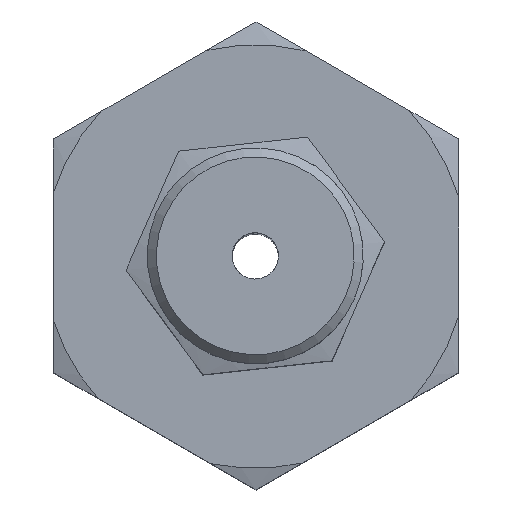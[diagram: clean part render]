
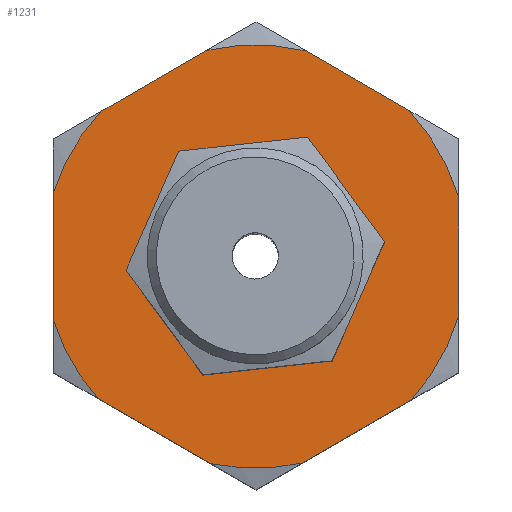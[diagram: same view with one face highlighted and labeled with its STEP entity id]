
A CAD part, top view. The second image highlights one B-rep face of the part: STEP entity #1231.
In plain terms, the highlighted planar face has unit normal (0, 0, 1).
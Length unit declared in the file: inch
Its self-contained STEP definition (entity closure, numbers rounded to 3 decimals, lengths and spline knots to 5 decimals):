
#89=LINE('',#5486,#123);
#97=LINE('',#5498,#131);
#98=LINE('',#5500,#132);
#100=LINE('',#5503,#134);
#102=LINE('',#5506,#136);
#104=LINE('',#5509,#138);
#123=VECTOR('',#1580,0.17691);
#131=VECTOR('',#1594,0.1789);
#132=VECTOR('',#1597,0.16854);
#134=VECTOR('',#1601,0.16192);
#136=VECTOR('',#1605,0.1641);
#138=VECTOR('',#1609,0.17271);
#263=PLANE('',#1349);
#292=FACE_BOUND('',#467,.T.);
#364=FACE_OUTER_BOUND('',#466,.T.);
#466=EDGE_LOOP('',(#1120,#1121,#1122,#1123,#1124,#1125,#1126,#1127,#1128,
#1129,#1130,#1131));
#467=EDGE_LOOP('',(#1132));
#507=CIRCLE('',#1315,0.1225);
#514=CIRCLE('',#1330,0.29175);
#515=CIRCLE('',#1332,0.29175);
#516=CIRCLE('',#1334,0.29175);
#517=CIRCLE('',#1336,0.29175);
#518=CIRCLE('',#1338,0.29175);
#519=CIRCLE('',#1340,0.29175);
#605=VERTEX_POINT('',#5348);
#624=VERTEX_POINT('',#5418);
#626=VERTEX_POINT('',#5423);
#627=VERTEX_POINT('',#5429);
#629=VERTEX_POINT('',#5434);
#630=VERTEX_POINT('',#5440);
#632=VERTEX_POINT('',#5445);
#633=VERTEX_POINT('',#5451);
#635=VERTEX_POINT('',#5456);
#636=VERTEX_POINT('',#5462);
#638=VERTEX_POINT('',#5467);
#640=VERTEX_POINT('',#5474);
#641=VERTEX_POINT('',#5478);
#753=EDGE_CURVE('',#605,#605,#507,.T.);
#773=EDGE_CURVE('',#626,#624,#514,.T.);
#776=EDGE_CURVE('',#629,#627,#515,.T.);
#779=EDGE_CURVE('',#632,#630,#516,.T.);
#782=EDGE_CURVE('',#635,#633,#517,.T.);
#785=EDGE_CURVE('',#638,#636,#518,.T.);
#789=EDGE_CURVE('',#640,#641,#519,.T.);
#792=EDGE_CURVE('',#638,#633,#89,.T.);
#801=EDGE_CURVE('',#640,#636,#97,.T.);
#802=EDGE_CURVE('',#635,#630,#98,.T.);
#804=EDGE_CURVE('',#632,#627,#100,.T.);
#806=EDGE_CURVE('',#629,#624,#102,.T.);
#808=EDGE_CURVE('',#626,#641,#104,.T.);
#1120=ORIENTED_EDGE('',*,*,#789,.T.);
#1121=ORIENTED_EDGE('',*,*,#808,.F.);
#1122=ORIENTED_EDGE('',*,*,#773,.T.);
#1123=ORIENTED_EDGE('',*,*,#806,.F.);
#1124=ORIENTED_EDGE('',*,*,#776,.T.);
#1125=ORIENTED_EDGE('',*,*,#804,.F.);
#1126=ORIENTED_EDGE('',*,*,#779,.T.);
#1127=ORIENTED_EDGE('',*,*,#802,.F.);
#1128=ORIENTED_EDGE('',*,*,#782,.T.);
#1129=ORIENTED_EDGE('',*,*,#792,.F.);
#1130=ORIENTED_EDGE('',*,*,#785,.T.);
#1131=ORIENTED_EDGE('',*,*,#801,.F.);
#1132=ORIENTED_EDGE('',*,*,#753,.T.);
#1231=ADVANCED_FACE('',(#364,#292),#263,.T.);
#1315=AXIS2_PLACEMENT_3D('',#5349,#1524,#1525);
#1330=AXIS2_PLACEMENT_3D('',#5424,#1554,#1555);
#1332=AXIS2_PLACEMENT_3D('',#5435,#1558,#1559);
#1334=AXIS2_PLACEMENT_3D('',#5446,#1562,#1563);
#1336=AXIS2_PLACEMENT_3D('',#5457,#1566,#1567);
#1338=AXIS2_PLACEMENT_3D('',#5468,#1570,#1571);
#1340=AXIS2_PLACEMENT_3D('',#5482,#1574,#1575);
#1349=AXIS2_PLACEMENT_3D('',#5510,#1610,#1611);
#1524=DIRECTION('center_axis',(0.,0.,
-1.));
#1525=DIRECTION('ref_axis',(-1.,-0.006,0.));
#1554=DIRECTION('center_axis',(0.,0.,
1.));
#1555=DIRECTION('ref_axis',(0.,1.,0.));
#1558=DIRECTION('center_axis',(0.,0.,
1.));
#1559=DIRECTION('ref_axis',(0.,1.,0.));
#1562=DIRECTION('center_axis',(0.,0.,
1.));
#1563=DIRECTION('ref_axis',(0.,1.,0.));
#1566=DIRECTION('center_axis',(0.,0.,
1.));
#1567=DIRECTION('ref_axis',(0.,1.,0.));
#1570=DIRECTION('center_axis',(0.,0.,
1.));
#1571=DIRECTION('ref_axis',(0.,1.,0.));
#1574=DIRECTION('center_axis',(0.,0.,
1.));
#1575=DIRECTION('ref_axis',(0.,1.,0.));
#1580=DIRECTION('',(0.,1.,0.));
#1594=DIRECTION('',(-0.866,0.5,0.));
#1597=DIRECTION('',(0.866,0.5,0.));
#1601=DIRECTION('',(0.866,-0.5,0.));
#1605=DIRECTION('',(0.,-1.,0.));
#1609=DIRECTION('',(-0.866,-0.5,0.));
#1610=DIRECTION('center_axis',(0.,0.,
1.));
#1611=DIRECTION('ref_axis',(1.,0.,0.));
#5348=CARTESIAN_POINT('',(0.1225,0.00068,0.78337));
#5349=CARTESIAN_POINT('Origin',(0.,0.,
0.78337));
#5418=CARTESIAN_POINT('',(0.27998,-0.08205,0.78337));
#5423=CARTESIAN_POINT('',(0.21412,-0.19817,0.78337));
#5424=CARTESIAN_POINT('Origin',(0.,0.,0.78337));
#5429=CARTESIAN_POINT('',(0.21026,0.20227,0.78337));
#5434=CARTESIAN_POINT('',(0.27998,0.08205,0.78337));
#5435=CARTESIAN_POINT('Origin',(0.,0.,0.78337));
#5440=CARTESIAN_POINT('',(-0.06668,0.28403,0.78337));
#5445=CARTESIAN_POINT('',(0.07004,0.28322,0.78337));
#5446=CARTESIAN_POINT('Origin',(0.,0.,0.78337));
#5451=CARTESIAN_POINT('',(-0.27802,0.08846,0.78337));
#5456=CARTESIAN_POINT('',(-0.21264,0.19976,0.78337));
#5457=CARTESIAN_POINT('Origin',(0.,0.,0.78337));
#5462=CARTESIAN_POINT('',(-0.21632,-0.19577,0.78337));
#5467=CARTESIAN_POINT('',(-0.27802,-0.08846,0.78337));
#5468=CARTESIAN_POINT('Origin',(0.,0.,0.78337));
#5474=CARTESIAN_POINT('',(-0.06139,-0.28522,0.78337));
#5478=CARTESIAN_POINT('',(0.06456,-0.28452,0.78337));
#5482=CARTESIAN_POINT('Origin',(0.,0.,0.78337));
#5486=CARTESIAN_POINT('',(-0.27802,-0.16015,0.78337));
#5498=CARTESIAN_POINT('',(0.00098,-0.32123,0.78337));
#5500=CARTESIAN_POINT('',(-0.27802,0.16201,0.78337));
#5503=CARTESIAN_POINT('',(0.00098,0.32309,0.78337));
#5506=CARTESIAN_POINT('',(0.27998,0.16201,0.78337));
#5509=CARTESIAN_POINT('',(0.27998,-0.16015,0.78337));
#5510=CARTESIAN_POINT('Origin',(0.00098,0.00093,
0.78337));
